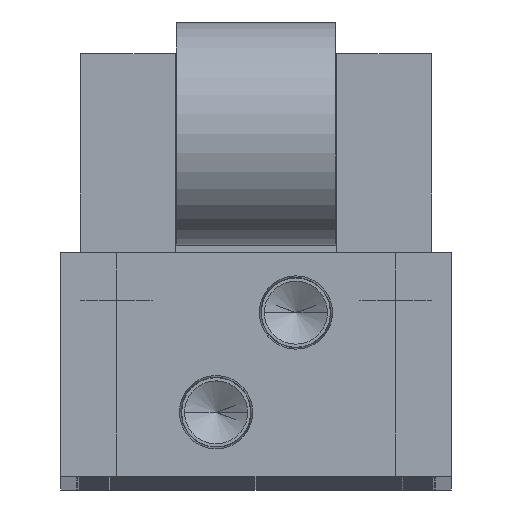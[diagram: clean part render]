
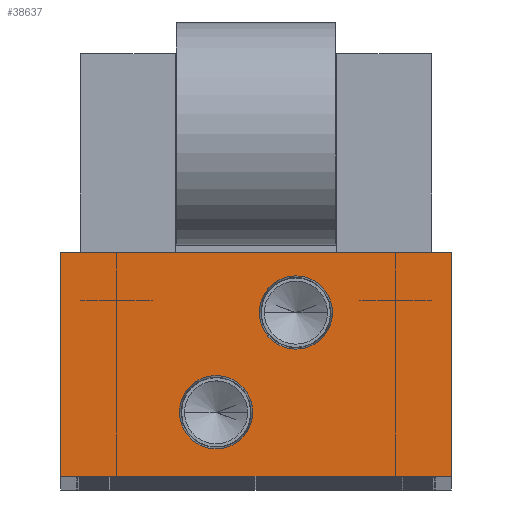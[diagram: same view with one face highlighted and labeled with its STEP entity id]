
A CAD part, top view. The second image highlights one B-rep face of the part: STEP entity #38637.
In plain terms, the highlighted planar face has unit normal (0, 0, 1).
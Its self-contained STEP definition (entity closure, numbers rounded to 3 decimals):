
#134 = CARTESIAN_POINT ( 'NONE',  ( 24.5, 28., 0. ) ) ;
#170 = CARTESIAN_POINT ( 'NONE',  ( 0., 0., 0. ) ) ;
#469 = DIRECTION ( 'NONE',  ( 1., 0., 0. ) ) ;
#1988 = DIRECTION ( 'NONE',  ( 1., 0., 0. ) ) ;
#2823 = EDGE_LOOP ( 'NONE', ( #26582, #29189 ) ) ;
#4108 = ORIENTED_EDGE ( 'NONE', *, *, #39838, .F. ) ;
#4888 = VERTEX_POINT ( 'NONE', #21586 ) ;
#5045 = VERTEX_POINT ( 'NONE', #34914 ) ;
#6359 = EDGE_CURVE ( 'NONE', #30130, #34404, #18634, .T. ) ;
#6734 = CARTESIAN_POINT ( 'NONE',  ( 24.5, 0., 0. ) ) ;
#7158 = DIRECTION ( 'NONE',  ( 1., 0., 0. ) ) ;
#7459 = ORIENTED_EDGE ( 'NONE', *, *, #28670, .T. ) ;
#7487 = CARTESIAN_POINT ( 'NONE',  ( -9.592, 8., 0. ) ) ;
#7544 = VECTOR ( 'NONE', #7158, 1000. ) ;
#7607 = CARTESIAN_POINT ( 'NONE',  ( 0.408, 20.5, 0. ) ) ;
#8946 = AXIS2_PLACEMENT_3D ( 'NONE', #30455, #11784, #33601 ) ;
#9047 = DIRECTION ( 'NONE',  ( 0., 1., 0. ) ) ;
#9378 = VERTEX_POINT ( 'NONE', #6734 ) ;
#9505 = DIRECTION ( 'NONE',  ( 1., 0., 0. ) ) ;
#9896 = ORIENTED_EDGE ( 'NONE', *, *, #38910, .T. ) ;
#10145 = AXIS2_PLACEMENT_3D ( 'NONE', #37740, #19039, #469 ) ;
#10243 = AXIS2_PLACEMENT_3D ( 'NONE', #39263, #20575, #1988 ) ;
#10459 = LINE ( 'NONE', #25817, #7544 ) ;
#10834 = DIRECTION ( 'NONE',  ( 0., -1., 0. ) ) ;
#11454 = CIRCLE ( 'NONE', #10145, 4.592 ) ;
#11784 = DIRECTION ( 'NONE',  ( 0., 0., 1. ) ) ;
#12024 = DIRECTION ( 'NONE',  ( 0., 0., 1. ) ) ;
#12307 = AXIS2_PLACEMENT_3D ( 'NONE', #170, #28153, #9505 ) ;
#12657 = AXIS2_PLACEMENT_3D ( 'NONE', #30696, #12024, #33824 ) ;
#15578 = CARTESIAN_POINT ( 'NONE',  ( -24.5, 28., 0. ) ) ;
#16435 = CIRCLE ( 'NONE', #12657, 4.592 ) ;
#16819 = EDGE_CURVE ( 'NONE', #21634, #26005, #37522, .T. ) ;
#18353 = FACE_BOUND ( 'NONE', #25026, .T. ) ;
#18634 = CIRCLE ( 'NONE', #8946, 4.592 ) ;
#19039 = DIRECTION ( 'NONE',  ( 0., 0., 1. ) ) ;
#20575 = DIRECTION ( 'NONE',  ( 0., 0., 1. ) ) ;
#21586 = CARTESIAN_POINT ( 'NONE',  ( -24.5, 0., 0. ) ) ;
#21634 = VERTEX_POINT ( 'NONE', #7607 ) ;
#22371 = LINE ( 'NONE', #37121, #37014 ) ;
#23746 = ORIENTED_EDGE ( 'NONE', *, *, #16819, .F. ) ;
#24487 = EDGE_CURVE ( 'NONE', #4888, #9378, #10459, .T. ) ;
#25026 = EDGE_LOOP ( 'NONE', ( #4108, #23746 ) ) ;
#25687 = FACE_BOUND ( 'NONE', #2823, .T. ) ;
#25817 = CARTESIAN_POINT ( 'NONE',  ( -24.5, 0., 0. ) ) ;
#26005 = VERTEX_POINT ( 'NONE', #35330 ) ;
#26582 = ORIENTED_EDGE ( 'NONE', *, *, #6359, .F. ) ;
#28016 = PLANE ( 'NONE',  #12307 ) ;
#28153 = DIRECTION ( 'NONE',  ( 0., 0., 1. ) ) ;
#28670 = EDGE_CURVE ( 'NONE', #9378, #31543, #22371, .T. ) ;
#29189 = ORIENTED_EDGE ( 'NONE', *, *, #34048, .F. ) ;
#30130 = VERTEX_POINT ( 'NONE', #32638 ) ;
#30455 = CARTESIAN_POINT ( 'NONE',  ( -5., 8., 0. ) ) ;
#30696 = CARTESIAN_POINT ( 'NONE',  ( -5., 8., 0. ) ) ;
#31019 = LINE ( 'NONE', #15578, #39311 ) ;
#31543 = VERTEX_POINT ( 'NONE', #134 ) ;
#32638 = CARTESIAN_POINT ( 'NONE',  ( -0.408, 8., 0. ) ) ;
#32647 = CARTESIAN_POINT ( 'NONE',  ( -24.5, 28., 0. ) ) ;
#33485 = LINE ( 'NONE', #32647, #34472 ) ;
#33601 = DIRECTION ( 'NONE',  ( 1., 0., 0. ) ) ;
#33640 = EDGE_LOOP ( 'NONE', ( #9896, #38710, #7459, #35537 ) ) ;
#33824 = DIRECTION ( 'NONE',  ( 1., 0., 0. ) ) ;
#34000 = FACE_OUTER_BOUND ( 'NONE', #33640, .T. ) ;
#34048 = EDGE_CURVE ( 'NONE', #34404, #30130, #16435, .T. ) ;
#34263 = DIRECTION ( 'NONE',  ( -1., 0., 0. ) ) ;
#34404 = VERTEX_POINT ( 'NONE', #7487 ) ;
#34472 = VECTOR ( 'NONE', #10834, 1000. ) ;
#34914 = CARTESIAN_POINT ( 'NONE',  ( -24.5, 28., 0. ) ) ;
#35330 = CARTESIAN_POINT ( 'NONE',  ( 9.592, 20.5, 0. ) ) ;
#35537 = ORIENTED_EDGE ( 'NONE', *, *, #39211, .T. ) ;
#37014 = VECTOR ( 'NONE', #9047, 1000. ) ;
#37121 = CARTESIAN_POINT ( 'NONE',  ( 24.5, 28., 0. ) ) ;
#37522 = CIRCLE ( 'NONE', #10243, 4.592 ) ;
#37740 = CARTESIAN_POINT ( 'NONE',  ( 5., 20.5, 0. ) ) ;
#38637 = ADVANCED_FACE ( 'NONE', ( #25687, #18353, #34000 ), #28016, .T. ) ;
#38710 = ORIENTED_EDGE ( 'NONE', *, *, #24487, .T. ) ;
#38910 = EDGE_CURVE ( 'NONE', #5045, #4888, #33485, .T. ) ;
#39211 = EDGE_CURVE ( 'NONE', #31543, #5045, #31019, .T. ) ;
#39263 = CARTESIAN_POINT ( 'NONE',  ( 5., 20.5, 0. ) ) ;
#39311 = VECTOR ( 'NONE', #34263, 1000. ) ;
#39838 = EDGE_CURVE ( 'NONE', #26005, #21634, #11454, .T. ) ;
